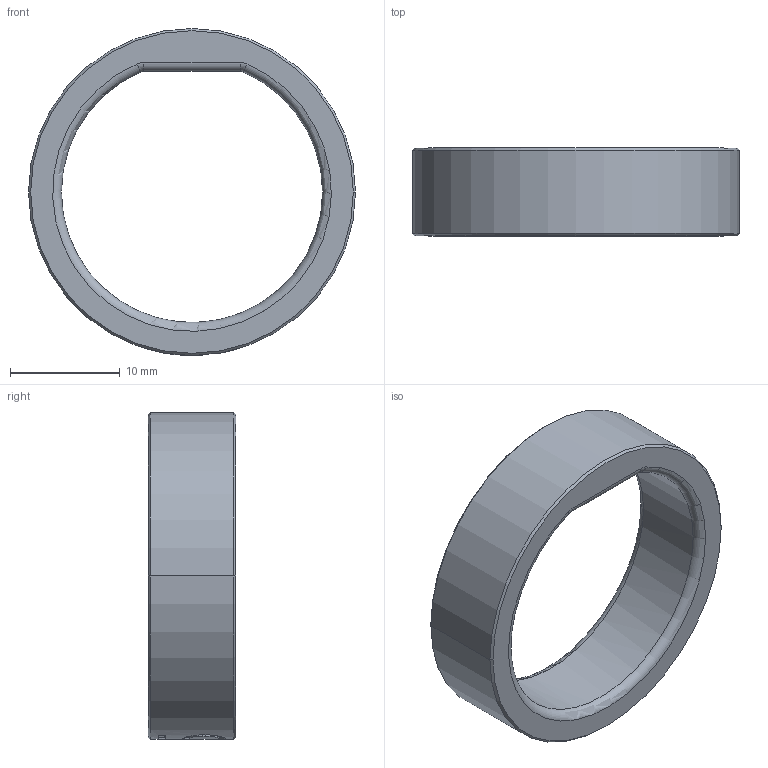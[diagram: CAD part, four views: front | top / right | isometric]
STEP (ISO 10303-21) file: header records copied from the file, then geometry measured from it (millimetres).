
FILE_DESCRIPTION((''),'2;1');
FILE_NAME('15','2026-09-02T10:53:53',('krisl'),(''),'CREO PARAMETRIC BY PTC INC, 2024063','CREO PARAMETRIC BY PTC INC, 2024063','');
FILE_SCHEMA(('CONFIG_CONTROL_DESIGN'));
Length unit declared in the file: millimetre
Products named in the file (1): 15
Bounding box: 29.8 x 8 x 29.8 mm (x, y, z)
Volume: 2037.1 mm3; surface area: 1796.9 mm2
Topology: 1 solids, 1 shells, 69 faces, 195 edges, 130 vertices
Faces by surface type: bspline 47, cylinder 9, torus 6, cone 4, plane 3
Entity records: 2904 total; most frequent: CARTESIAN_POINT 1358, ORIENTED_EDGE 390, EDGE_CURVE 195, DIRECTION 194, VERTEX_POINT 130, B_SPLINE_CURVE_WITH_KNOTS 105, AXIS2_PLACEMENT_3D 82, EDGE_LOOP 73
